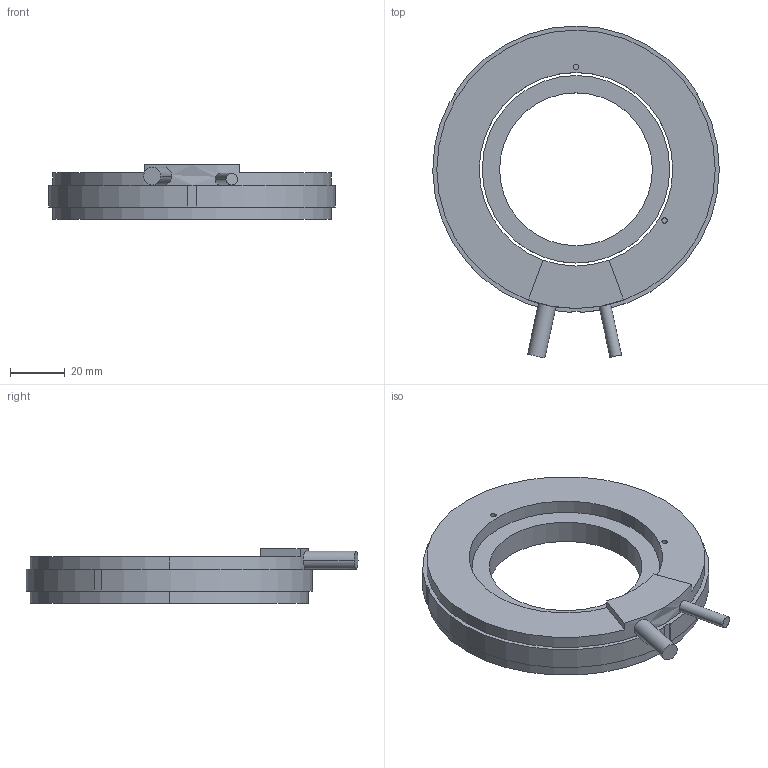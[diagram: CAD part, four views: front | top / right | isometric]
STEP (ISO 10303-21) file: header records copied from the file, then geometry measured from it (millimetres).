
FILE_DESCRIPTION (( 'STEP AP203' ), '1' );
FILE_NAME ('TM105-17 3D.STEP', '2024-01-12T02:37:43', ( '' ), ( '' ), 'SwSTEP 2.0', 'SolidWorks 2021', '' );
FILE_SCHEMA (( 'CONFIG_CONTROL_DESIGN' ));
Length unit declared in the file: millimetre
Products named in the file (1): TM105-17 3D
Bounding box: 104.99 x 121.65 x 20 mm (x, y, z)
Volume: 88660.3 mm3; surface area: 25547.6 mm2
Topology: 2 solids, 2 shells, 44 faces, 105 edges, 70 vertices
Faces by surface type: cylinder 22, plane 22
Entity records: 1492 total; most frequent: CARTESIAN_POINT 344, DIRECTION 235, ORIENTED_EDGE 210, EDGE_CURVE 105, AXIS2_PLACEMENT_3D 89, VERTEX_POINT 70, LINE 57, VECTOR 57
